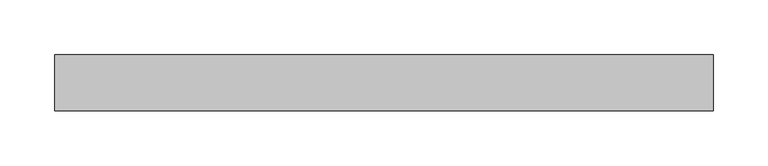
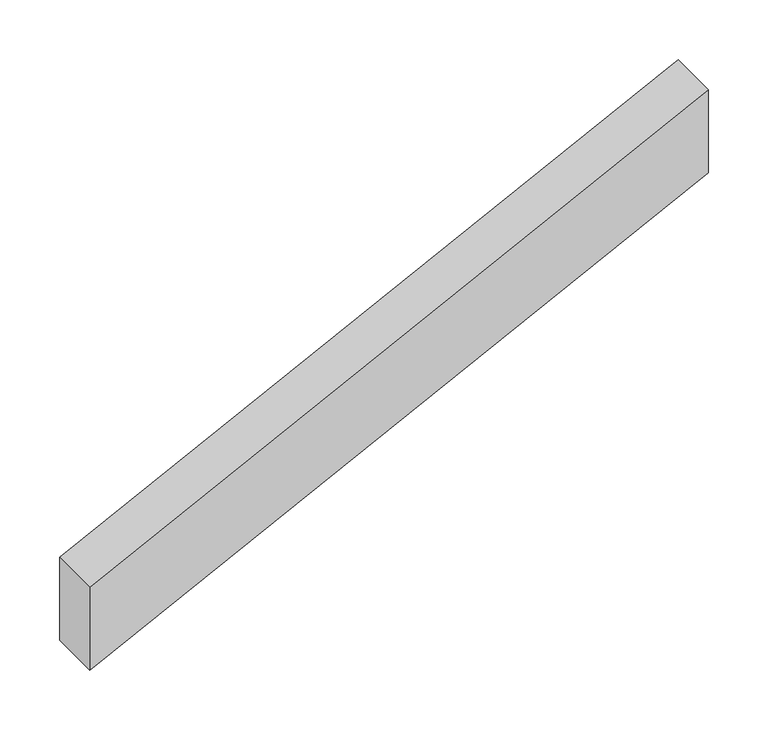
"""IFC4 building model written with IfcOpenShell, lengths in millimetres: railing geometry, Ограждение 1."""

import ifcopenshell
import ifcopenshell.guid

model = None  # the IFC model being written
_history = None  # IfcOwnerHistory: only IFC2X3 demands one
_inside = {}  # id of a spatial element -> (the spatial element, [elements in it])
_under = {}  # id of a project, library or spatial element -> (it, [spatial elements below it])
_declared = {}  # id of a project -> (the project, [libraries it declares])
_typed = {}  # id of a type object -> (the type object, [elements of that type])
_made_of = {}  # id of a material, layer set ... -> (it, [elements and type objects made of it])


def new_model(schema):
    """Start an empty IFC model of exactly this schema.

    Asked for "IFC4X3", IfcOpenShell would pick the latest addendum, in which some entities
    have other attributes; the version numbers below select the first issue.
    IFC2X3 requires an IfcOwnerHistory on every rooted entity: one is made here for all.
    """
    global model, _history
    if schema == "IFC4X3":
        model = ifcopenshell.file(schema_version=(4, 3, 0, 0))
    else:
        model = ifcopenshell.file(schema=schema)
    _inside.clear()
    _under.clear()
    _declared.clear()
    _typed.clear()
    _made_of.clear()
    _history = None
    if model.schema == "IFC2X3":
        org = make("IfcOrganization", Name="unknown")
        user = make(
            "IfcPersonAndOrganization",
            ThePerson=make("IfcPerson", FamilyName="unknown"),
            TheOrganization=org,
        )
        app = make(
            "IfcApplication",
            ApplicationDeveloper=org,
            Version="unknown",
            ApplicationFullName="unknown",
            ApplicationIdentifier="unknown",
        )
        _history = make(
            "IfcOwnerHistory",
            OwningUser=user,
            OwningApplication=app,
            ChangeAction="ADDED",
            CreationDate=0,
        )
    return model


def make(cls, **values):
    """One entity of the class cls with the attributes given. An attribute that is None is left unset."""
    return model.create_entity(
        cls, **{name: value for name, value in values.items() if value is not None}
    )


def rooted(cls, **values):
    """An entity with a GlobalId (a new one), such as an element, a storey or a relation."""
    return make(cls, GlobalId=ifcopenshell.guid.new(), OwnerHistory=_history, **values)


def si_unit(unit_type, name, prefix=None):
    """IfcSIUnit, for example si_unit("LENGTHUNIT", "METRE", prefix="MILLI")."""
    return make("IfcSIUnit", UnitType=unit_type, Prefix=prefix, Name=name)


def assignment(units):
    """IfcUnitAssignment: the units of a project."""
    return None if units is None else make("IfcUnitAssignment", Units=units)


def point(xyz):
    """IfcCartesianPoint."""
    return None if xyz is None else make("IfcCartesianPoint", Coordinates=xyz)


def direction(xyz):
    """IfcDirection."""
    return None if xyz is None else make("IfcDirection", DirectionRatios=xyz)


def frame(location, z_axis=None, x_axis=None):
    """IfcAxis2Placement3D, a coordinate frame: its origin and axes. An axis left out is left unset."""
    return make(
        "IfcAxis2Placement3D",
        Location=point(location),
        Axis=direction(z_axis),
        RefDirection=direction(x_axis),
    )


def origin():
    """The frame at (0, 0, 0) with its axes left unset."""
    return frame((0.0, 0.0, 0.0))


def place(relative_to, where):
    """IfcLocalPlacement: puts the frame where relative to a parent placement (None: the world)."""
    return make(
        "IfcLocalPlacement", PlacementRelTo=relative_to, RelativePlacement=where
    )


def context(
    kind, dimensions, precision=None, world=None, true_north=None, identifier=None
):
    """IfcGeometricRepresentationContext, for example the 3D "Model" context."""
    return make(
        "IfcGeometricRepresentationContext",
        ContextIdentifier=identifier,
        ContextType=kind,
        CoordinateSpaceDimension=dimensions,
        Precision=precision,
        WorldCoordinateSystem=world,
        TrueNorth=true_north,
    )


def project(units=None, contexts=None):
    """IfcProject with its units and contexts."""
    return rooted(
        "IfcProject",
        Name="project",
        RepresentationContexts=contexts,
        UnitsInContext=assignment(units),
    )


def spatial(cls, under=None, at=None, **own):
    """A site, building, storey or space (cls), placed at a placement, below another one or the project."""
    s = rooted(cls, ObjectPlacement=at, **own)
    if under is not None:
        _under.setdefault(under.id(), (under, []))[1].append(s)
    return s


def polyline(points):
    """IfcPolyline through the points."""
    return make("IfcPolyline", Points=[point(p) for p in points])


def outline(outer, holes=None, kind="AREA"):
    """IfcArbitraryClosedProfileDef: a profile drawn as a closed curve; with holes, ...WithVoids."""
    if holes is None:
        return make("IfcArbitraryClosedProfileDef", ProfileType=kind, OuterCurve=outer)
    return make(
        "IfcArbitraryProfileDefWithVoids",
        ProfileType=kind,
        OuterCurve=outer,
        InnerCurves=holes,
    )


def extrude(swept, where, along, depth):
    """IfcExtrudedAreaSolid: the profile swept, set in the frame where, extruded along a direction by depth."""
    return make(
        "IfcExtrudedAreaSolid",
        SweptArea=swept,
        Position=where,
        ExtrudedDirection=direction(along),
        Depth=depth,
    )


def shape(context_of_items, identifier, shape_type, items):
    """IfcShapeRepresentation: the items that make up one representation, for example the "Body"."""
    return make(
        "IfcShapeRepresentation",
        ContextOfItems=context_of_items,
        RepresentationIdentifier=identifier,
        RepresentationType=shape_type,
        Items=items,
    )


def source(mapping_origin, context_of_items, identifier, shape_type, items):
    """IfcRepresentationMap: a shape defined once, which mapped items show again and again."""
    return make(
        "IfcRepresentationMap",
        MappingOrigin=mapping_origin,
        MappedRepresentation=shape(context_of_items, identifier, shape_type, items),
    )


def transform(
    local_origin,
    x_axis=None,
    y_axis=None,
    z_axis=None,
    scale=None,
    scale2=None,
    scale3=None,
    uniform=True,
):
    """IfcCartesianTransformationOperator3D, or its non-uniform kind. x_axis, y_axis, z_axis: its Axis1, 2, 3."""
    if uniform:
        return make(
            "IfcCartesianTransformationOperator3D",
            Axis1=direction(x_axis),
            Axis2=direction(y_axis),
            LocalOrigin=point(local_origin),
            Scale=scale,
            Axis3=direction(z_axis),
        )
    return make(
        "IfcCartesianTransformationOperator3DnonUniform",
        Axis1=direction(x_axis),
        Axis2=direction(y_axis),
        LocalOrigin=point(local_origin),
        Scale=scale,
        Axis3=direction(z_axis),
        Scale2=scale2,
        Scale3=scale3,
    )


def mapped(mapping_source, mapping_target):
    """IfcMappedItem: shows the shape of a source again, moved by a transform."""
    return make(
        "IfcMappedItem", MappingSource=mapping_source, MappingTarget=mapping_target
    )


def made_of(thing, what):
    """Note that an element or type object is made of a material, layer set ...; save() writes the relation."""
    if what is not None:
        _made_of.setdefault(what.id(), (what, []))[1].append(thing)
    return thing


def element(
    cls,
    number,
    at=None,
    inside=None,
    cuts=None,
    type_object=None,
    material=None,
    context=None,
    identifier="Body",
    shape_type=None,
    held_by="IfcProductDefinitionShape",
    body=None,
    shapes=None,
    **own,
):
    """One element of the class cls, such as IfcWall. Its Tag is "e" and its number.

    at: its placement. inside: the storey or other place that contains it. cuts: it is an
    opening in that element (IfcRelVoidsElement). A single representation is given by context,
    identifier, shape_type and body (its items); several are given by shapes. held_by: the class
    of the entity that holds the representations. save() writes the other relations.
    """
    e = rooted(cls, Tag="e%d" % number, ObjectPlacement=at, **own)
    if body is not None:
        shapes = [shape(context, identifier, shape_type, body)]
    if shapes is not None:
        e.Representation = make(held_by, Representations=shapes)
    if inside is not None:
        _inside.setdefault(inside.id(), (inside, []))[1].append(e)
    if cuts is not None:
        rooted(
            "IfcRelVoidsElement", RelatingBuildingElement=cuts, RelatedOpeningElement=e
        )
    if type_object is not None:
        _typed.setdefault(type_object.id(), (type_object, []))[1].append(e)
    return made_of(e, material)


def aggregate(whole, parts):
    """IfcRelAggregates: a whole, such as a stair, and the parts it consists of."""
    return rooted("IfcRelAggregates", RelatingObject=whole, RelatedObjects=parts)


def save(model, path):
    """Write the relations noted so far, then the file.

    IfcRelAggregates (storeys below a building ...), IfcRelContainedInSpatialStructure (elements
    in a storey), IfcRelDefinesByType, IfcRelAssociatesMaterial and IfcRelDeclares: one each for
    every whole, place, type object, material and project.
    """
    for whole, parts in _under.values():
        aggregate(whole, parts)
    for where, things in _inside.values():
        rooted(
            "IfcRelContainedInSpatialStructure",
            RelatedElements=things,
            RelatingStructure=where,
        )
    for kind, things in _typed.values():
        rooted("IfcRelDefinesByType", RelatedObjects=things, RelatingType=kind)
    for what, things in _made_of.values():
        rooted("IfcRelAssociatesMaterial", RelatedObjects=things, RelatingMaterial=what)
    for by, libraries in _declared.values():
        rooted("IfcRelDeclares", RelatingContext=by, RelatedDefinitions=libraries)
    model.write(path)


def railing_15e125c1(model_context):
    return source(origin(), model_context, "Body", "SweptSolid", [
        extrude(outline(polyline([(550.0, 8950.291724), (464.8058101, 8950.291724), (764.8058101, 9550.291724), (850.0, 9550.291724), (550.0, 8950.291724)])), frame((0.0, 4629.2, 0.0), z_axis=(0.0, 1.0, 0.0), x_axis=(0.0, 0.0, 1.0)), (0.0, 0.0, 1.0), 50.8),
    ])


if __name__ == "__main__":
    model = new_model("IFC4")
    model_context = context("Model", 3, world=origin())
    ifc_project = project(units=[si_unit("LENGTHUNIT", "METRE", prefix="MILLI")], contexts=[model_context])
    site = spatial("IfcSite", under=ifc_project)
    building = spatial("IfcBuilding", under=site)
    placement = place(None, origin())
    railing_shape = railing_15e125c1(model_context)
    element("IfcRailing", 1, ObjectType="Ограждение 1", at=placement, inside=building, context=model_context, shape_type="MappedRepresentation", body=[
        mapped(railing_shape, transform((0.0, 0.0, 0.0), x_axis=(1.0, 0.0, 0.0), y_axis=(0.0, 1.0, 0.0), z_axis=(0.0, 0.0, 1.0))),
    ])
    save(model, "model.ifc")
